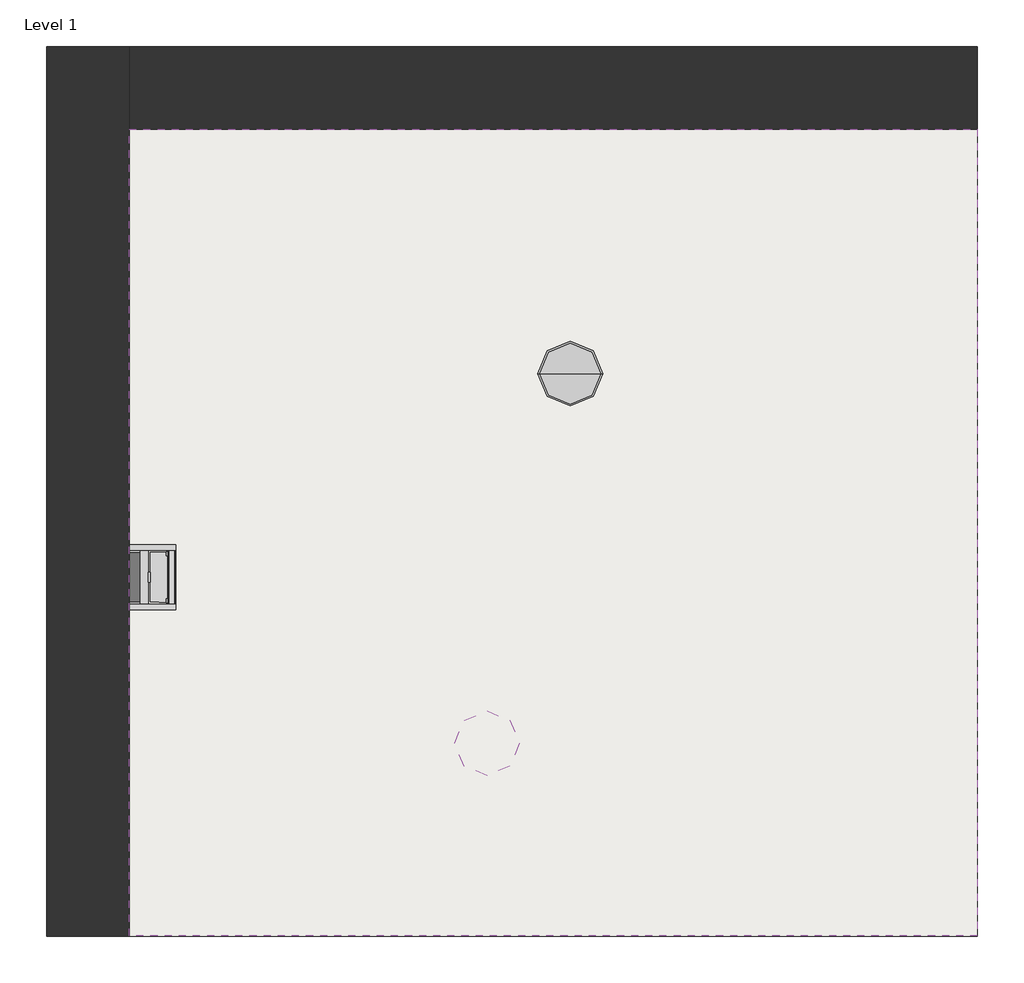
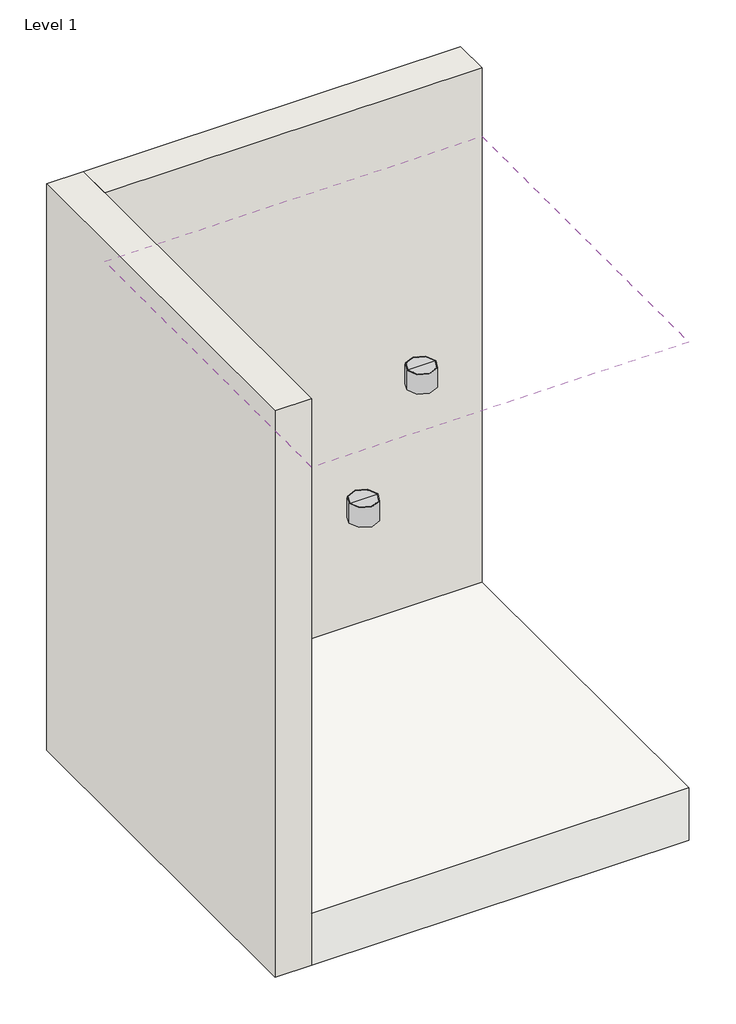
# One storey: 3 light fixtures, 2 walls, 1 covering, 1 slab.
"""IFC4 building model written with IfcOpenShell, lengths in millimetres."""

import ifcopenshell
import ifcopenshell.guid

model = None  # the IFC model being written
_history = None  # IfcOwnerHistory: only IFC2X3 demands one
_inside = {}  # id of a spatial element -> (the spatial element, [elements in it])
_under = {}  # id of a project, library or spatial element -> (it, [spatial elements below it])
_declared = {}  # id of a project -> (the project, [libraries it declares])
_typed = {}  # id of a type object -> (the type object, [elements of that type])
_made_of = {}  # id of a material, layer set ... -> (it, [elements and type objects made of it])


def new_model(schema):
    """Start an empty IFC model of exactly this schema.

    Asked for "IFC4X3", IfcOpenShell would pick the latest addendum, in which some entities
    have other attributes; the version numbers below select the first issue.
    IFC2X3 requires an IfcOwnerHistory on every rooted entity: one is made here for all.
    """
    global model, _history
    if schema == "IFC4X3":
        model = ifcopenshell.file(schema_version=(4, 3, 0, 0))
    else:
        model = ifcopenshell.file(schema=schema)
    _inside.clear()
    _under.clear()
    _declared.clear()
    _typed.clear()
    _made_of.clear()
    _history = None
    if model.schema == "IFC2X3":
        org = make("IfcOrganization", Name="unknown")
        user = make(
            "IfcPersonAndOrganization",
            ThePerson=make("IfcPerson", FamilyName="unknown"),
            TheOrganization=org,
        )
        app = make(
            "IfcApplication",
            ApplicationDeveloper=org,
            Version="unknown",
            ApplicationFullName="unknown",
            ApplicationIdentifier="unknown",
        )
        _history = make(
            "IfcOwnerHistory",
            OwningUser=user,
            OwningApplication=app,
            ChangeAction="ADDED",
            CreationDate=0,
        )
    return model


def make(cls, **values):
    """One entity of the class cls with the attributes given. An attribute that is None is left unset."""
    return model.create_entity(
        cls, **{name: value for name, value in values.items() if value is not None}
    )


def rooted(cls, **values):
    """An entity with a GlobalId (a new one), such as an element, a storey or a relation."""
    return make(cls, GlobalId=ifcopenshell.guid.new(), OwnerHistory=_history, **values)


def si_unit(unit_type, name, prefix=None):
    """IfcSIUnit, for example si_unit("LENGTHUNIT", "METRE", prefix="MILLI")."""
    return make("IfcSIUnit", UnitType=unit_type, Prefix=prefix, Name=name)


def assignment(units):
    """IfcUnitAssignment: the units of a project."""
    return None if units is None else make("IfcUnitAssignment", Units=units)


def point(xyz):
    """IfcCartesianPoint."""
    return None if xyz is None else make("IfcCartesianPoint", Coordinates=xyz)


def direction(xyz):
    """IfcDirection."""
    return None if xyz is None else make("IfcDirection", DirectionRatios=xyz)


def frame(location, z_axis=None, x_axis=None):
    """IfcAxis2Placement3D, a coordinate frame: its origin and axes. An axis left out is left unset."""
    return make(
        "IfcAxis2Placement3D",
        Location=point(location),
        Axis=direction(z_axis),
        RefDirection=direction(x_axis),
    )


def frame_2d(location, x_axis=None):
    """IfcAxis2Placement2D, a coordinate frame in the plane: its origin and x axis."""
    return make(
        "IfcAxis2Placement2D", Location=point(location), RefDirection=direction(x_axis)
    )


def origin():
    """The frame at (0, 0, 0) with its axes left unset."""
    return frame((0.0, 0.0, 0.0))


def place(relative_to, where):
    """IfcLocalPlacement: puts the frame where relative to a parent placement (None: the world)."""
    return make(
        "IfcLocalPlacement", PlacementRelTo=relative_to, RelativePlacement=where
    )


def context(
    kind, dimensions, precision=None, world=None, true_north=None, identifier=None
):
    """IfcGeometricRepresentationContext, for example the 3D "Model" context."""
    return make(
        "IfcGeometricRepresentationContext",
        ContextIdentifier=identifier,
        ContextType=kind,
        CoordinateSpaceDimension=dimensions,
        Precision=precision,
        WorldCoordinateSystem=world,
        TrueNorth=true_north,
    )


def project(units=None, contexts=None):
    """IfcProject with its units and contexts."""
    return rooted(
        "IfcProject",
        Name="project",
        RepresentationContexts=contexts,
        UnitsInContext=assignment(units),
    )


def spatial(cls, under=None, at=None, **own):
    """A site, building, storey or space (cls), placed at a placement, below another one or the project."""
    s = rooted(cls, ObjectPlacement=at, **own)
    if under is not None:
        _under.setdefault(under.id(), (under, []))[1].append(s)
    return s


def polyline(points):
    """IfcPolyline through the points."""
    return make("IfcPolyline", Points=[point(p) for p in points])


def circle_curve(where, radius):
    """IfcCircle in the frame where."""
    return make("IfcCircle", Position=where, Radius=radius)


def ellipse_curve(where, semi_axis1, semi_axis2):
    """IfcEllipse in the frame where."""
    return make(
        "IfcEllipse", Position=where, SemiAxis1=semi_axis1, SemiAxis2=semi_axis2
    )


def trimmed(basis, trim1, trim2, sense, master):
    """IfcTrimmedCurve: the piece of a basis curve between two trims."""
    return make(
        "IfcTrimmedCurve",
        BasisCurve=basis,
        Trim1=trim1,
        Trim2=trim2,
        SenseAgreement=sense,
        MasterRepresentation=master,
    )


def segment(curve, same_sense, transition):
    """IfcCompositeCurveSegment."""
    return make(
        "IfcCompositeCurveSegment",
        Transition=transition,
        SameSense=same_sense,
        ParentCurve=curve,
    )


def composite_curve(segments, self_intersect=None):
    """IfcCompositeCurve: segments joined end to end."""
    return make("IfcCompositeCurve", Segments=segments, SelfIntersect=self_intersect)


def outline(outer, holes=None, kind="AREA"):
    """IfcArbitraryClosedProfileDef: a profile drawn as a closed curve; with holes, ...WithVoids."""
    if holes is None:
        return make("IfcArbitraryClosedProfileDef", ProfileType=kind, OuterCurve=outer)
    return make(
        "IfcArbitraryProfileDefWithVoids",
        ProfileType=kind,
        OuterCurve=outer,
        InnerCurves=holes,
    )


def extrude(swept, where, along, depth):
    """IfcExtrudedAreaSolid: the profile swept, set in the frame where, extruded along a direction by depth."""
    return make(
        "IfcExtrudedAreaSolid",
        SweptArea=swept,
        Position=where,
        ExtrudedDirection=direction(along),
        Depth=depth,
    )


def faces_of(points, faces, orient=None, outer=None):
    """IfcFace entities. A face is a list of loops; a loop is a list of indices into points, from 0.

    orient and outer hold one flag for each loop. By default every Orientation is true, the
    first loop of a face is its IfcFaceOuterBound and the others are IfcFaceBound.
    """
    made = []
    for i, loops in enumerate(faces):
        bounds = []
        for j, loop in enumerate(loops):
            is_outer = j == 0 if outer is None else outer[i][j]
            bounds.append(
                make(
                    "IfcFaceOuterBound" if is_outer else "IfcFaceBound",
                    Bound=make("IfcPolyLoop", Polygon=[points[k] for k in loop]),
                    Orientation=True if orient is None else orient[i][j],
                )
            )
        made.append(make("IfcFace", Bounds=bounds))
    return made


def faceted_brep(points, faces, orient=None, outer=None, voids=None):
    """IfcFacetedBrep: a solid bounded by flat faces; with voids (closed shells), ...WithVoids."""
    shared = [point(p) for p in points]
    hull = make("IfcClosedShell", CfsFaces=faces_of(shared, faces, orient, outer))
    if voids is None:
        return make("IfcFacetedBrep", Outer=hull)
    return make(
        "IfcFacetedBrepWithVoids",
        Outer=hull,
        Voids=[
            make(cls, CfsFaces=faces_of(shared, fs, o, b)) for cls, fs, o, b in voids
        ],
    )


def shape(context_of_items, identifier, shape_type, items):
    """IfcShapeRepresentation: the items that make up one representation, for example the "Body"."""
    return make(
        "IfcShapeRepresentation",
        ContextOfItems=context_of_items,
        RepresentationIdentifier=identifier,
        RepresentationType=shape_type,
        Items=items,
    )


def source(mapping_origin, context_of_items, identifier, shape_type, items):
    """IfcRepresentationMap: a shape defined once, which mapped items show again and again."""
    return make(
        "IfcRepresentationMap",
        MappingOrigin=mapping_origin,
        MappedRepresentation=shape(context_of_items, identifier, shape_type, items),
    )


def transform(
    local_origin,
    x_axis=None,
    y_axis=None,
    z_axis=None,
    scale=None,
    scale2=None,
    scale3=None,
    uniform=True,
):
    """IfcCartesianTransformationOperator3D, or its non-uniform kind. x_axis, y_axis, z_axis: its Axis1, 2, 3."""
    if uniform:
        return make(
            "IfcCartesianTransformationOperator3D",
            Axis1=direction(x_axis),
            Axis2=direction(y_axis),
            LocalOrigin=point(local_origin),
            Scale=scale,
            Axis3=direction(z_axis),
        )
    return make(
        "IfcCartesianTransformationOperator3DnonUniform",
        Axis1=direction(x_axis),
        Axis2=direction(y_axis),
        LocalOrigin=point(local_origin),
        Scale=scale,
        Axis3=direction(z_axis),
        Scale2=scale2,
        Scale3=scale3,
    )


def mapped(mapping_source, mapping_target):
    """IfcMappedItem: shows the shape of a source again, moved by a transform."""
    return make(
        "IfcMappedItem", MappingSource=mapping_source, MappingTarget=mapping_target
    )


def made_of(thing, what):
    """Note that an element or type object is made of a material, layer set ...; save() writes the relation."""
    if what is not None:
        _made_of.setdefault(what.id(), (what, []))[1].append(thing)
    return thing


def element(
    cls,
    number,
    at=None,
    inside=None,
    cuts=None,
    type_object=None,
    material=None,
    context=None,
    identifier="Body",
    shape_type=None,
    held_by="IfcProductDefinitionShape",
    body=None,
    shapes=None,
    **own,
):
    """One element of the class cls, such as IfcWall. Its Tag is "e" and its number.

    at: its placement. inside: the storey or other place that contains it. cuts: it is an
    opening in that element (IfcRelVoidsElement). A single representation is given by context,
    identifier, shape_type and body (its items); several are given by shapes. held_by: the class
    of the entity that holds the representations. save() writes the other relations.
    """
    e = rooted(cls, Tag="e%d" % number, ObjectPlacement=at, **own)
    if body is not None:
        shapes = [shape(context, identifier, shape_type, body)]
    if shapes is not None:
        e.Representation = make(held_by, Representations=shapes)
    if inside is not None:
        _inside.setdefault(inside.id(), (inside, []))[1].append(e)
    if cuts is not None:
        rooted(
            "IfcRelVoidsElement", RelatingBuildingElement=cuts, RelatedOpeningElement=e
        )
    if type_object is not None:
        _typed.setdefault(type_object.id(), (type_object, []))[1].append(e)
    return made_of(e, material)


def aggregate(whole, parts):
    """IfcRelAggregates: a whole, such as a stair, and the parts it consists of."""
    return rooted("IfcRelAggregates", RelatingObject=whole, RelatedObjects=parts)


def save(model, path):
    """Write the relations noted so far, then the file.

    IfcRelAggregates (storeys below a building ...), IfcRelContainedInSpatialStructure (elements
    in a storey), IfcRelDefinesByType, IfcRelAssociatesMaterial and IfcRelDeclares: one each for
    every whole, place, type object, material and project.
    """
    for whole, parts in _under.values():
        aggregate(whole, parts)
    for where, things in _inside.values():
        rooted(
            "IfcRelContainedInSpatialStructure",
            RelatedElements=things,
            RelatingStructure=where,
        )
    for kind, things in _typed.values():
        rooted("IfcRelDefinesByType", RelatedObjects=things, RelatingType=kind)
    for what, things in _made_of.values():
        rooted("IfcRelAssociatesMaterial", RelatedObjects=things, RelatingMaterial=what)
    for by, libraries in _declared.values():
        rooted("IfcRelDeclares", RelatingContext=by, RelatedDefinitions=libraries)
    model.write(path)


def plane_surface(at):
    """IfcPlane: the flat surface through the origin of the frame at, square to its z axis."""
    return make("IfcPlane", Position=at)


def cylinder_surface(at, radius):
    """IfcCylindricalSurface: all points at the distance radius from the z axis of the frame at."""
    return make("IfcCylindricalSurface", Position=at, Radius=radius)


def revolved_surface(curve, axis_point, axis_direction):
    """IfcSurfaceOfRevolution: the curve turned about the line through axis_point along axis_direction."""
    return make(
        "IfcSurfaceOfRevolution",
        SweptCurve=make("IfcArbitraryOpenProfileDef", ProfileType="CURVE", Curve=curve),
        AxisPosition=make("IfcAxis1Placement", Location=point(axis_point), Axis=direction(axis_direction)),
    )


def advanced_brep(points, edges, surfaces, faces):
    """IfcAdvancedBrep: a solid bounded by faces that lie on surfaces and meet in shared edges.

    An edge is (start, end): straight between two places in points (the first is 0);
    or (start, end, curve); or (start, end, curve, False) where it runs against its curve.
    A face is (place in surfaces, loops), or (place, loops, False) where it looks against
    its surface's normal. A loop lists edges by number (the first is 1), with a minus sign
    where the edge is run from its end to its start. The first loop is the outer one.
    """
    corners = [point(p) for p in points]
    vertices = [make("IfcVertexPoint", VertexGeometry=c) for c in corners]
    made = []
    for start, end, *more in edges:
        made.append(
            make(
                "IfcEdgeCurve",
                EdgeStart=vertices[start],
                EdgeEnd=vertices[end],
                EdgeGeometry=more[0] if more else make("IfcPolyline", Points=[corners[start], corners[end]]),
                SameSense=more[1] if len(more) > 1 else True,
            )
        )
    hull = []
    for where, loops, *sense in faces:
        bounds = []
        for j, loop in enumerate(loops):
            ring = [make("IfcOrientedEdge", EdgeElement=made[abs(k) - 1], Orientation=k > 0) for k in loop]
            bounds.append(
                make(
                    "IfcFaceOuterBound" if j == 0 else "IfcFaceBound",
                    Bound=make("IfcEdgeLoop", EdgeList=ring),
                    Orientation=True,
                )
            )
        hull.append(make("IfcAdvancedFace", Bounds=bounds, FaceSurface=surfaces[where], SameSense=sense[0] if sense else True))
    return make("IfcAdvancedBrep", Outer=make("IfcClosedShell", CfsFaces=hull))


def light_fixture_8562f4af(model_context):
    return source(origin(), model_context, "Body", "SolidModel", [
        advanced_brep(
        [(74.8683073, -33.7992882, 0.0), (-74.8683073, -33.7992882, 0.0), (0.0, -33.7992882, 0.0), (74.8683073, -33.7992882, -26.1716136), (-74.8683073, -33.7992882, -26.1716136), (0.0, -33.7992882, -26.1716136)],
        [
            (0, 1, circle_curve(frame((0.0, -33.7992882, 0.0), z_axis=(0.0, 0.0, 1.0), x_axis=(-1.0, 0.0, 0.0)), 74.8683073)),
            (1, 2),
            (2, 0),
            (1, 0, circle_curve(frame((0.0, -33.7992882, 0.0), z_axis=(0.0, 0.0, 1.0), x_axis=(-1.0, 0.0, 0.0)), 74.8683073)),
            (3, 4, circle_curve(frame((0.0, -33.7992882, -26.1716136), z_axis=(0.0, 0.0, 1.0), x_axis=(-1.0, 0.0, 0.0)), 74.8683073)),
            (4, 1),
            (0, 3),
            (4, 3, circle_curve(frame((0.0, -33.7992882, -26.1716136), z_axis=(0.0, 0.0, 1.0), x_axis=(-1.0, 0.0, 0.0)), 74.8683073)),
            (5, 4),
            (3, 5),
        ],
        [
            plane_surface(frame((0.0, -33.7992882, 0.0), z_axis=(0.0, 0.0, 1.0), x_axis=(-1.0, 0.0, 0.0))),
            cylinder_surface(frame((0.0, -33.7992882, 2350.6431236), z_axis=(0.0, 0.0, -1.0), x_axis=(-1.0, 0.0, 0.0)), 74.8683073),
            plane_surface(frame((0.0, -33.7992882, -26.1716136), z_axis=(0.0, 0.0, -1.0), x_axis=(-1.0, 0.0, 0.0))),
        ],
        [
            (0, [[1, 2, 3]]),
            (0, [[4, -3, -2]]),
            (1, [[5, 6, -1, 7]]),
            (1, [[8, -7, -4, -6]]),
            (2, [[9, -5, 10]]),
            (2, [[-10, -8, -9]]),
        ],
    ),
        advanced_brep(
        [(79.375, -33.7992882, -114.3), (-79.375, -33.7992882, -114.3), (-79.375, -33.7992882, 0.0), (79.375, -33.7992882, 0.0), (76.218677, -33.7992882, -114.3), (-76.218677, -33.7992882, -114.3), (73.7146298, -33.7992882, -112.4695561), (-73.7146298, -33.7992882, -112.4695561), (72.4208316, -33.7992882, -111.6827591), (-72.4208316, -33.7992882, -111.6827591), (67.9983817, -33.7992882, -97.4715725), (-67.9983817, -33.7992882, -97.4715725), (64.5876251, -33.7992882, -97.2220238), (-64.5876251, -33.7992882, -97.2220238), (62.8687802, -33.7992882, -94.2787464), (-62.8687802, -33.7992882, -94.2787464), (60.7788732, -33.7992882, -51.0840469), (-60.7788732, -33.7992882, -51.0840469), (12.0557957, -33.7992882, -51.0840469), (-12.0557957, -33.7992882, -51.0840469), (12.0557957, -33.7992882, -47.1409651), (-12.0557957, -33.7992882, -47.1409651), (74.8683073, -33.7992882, -47.1409651), (-74.8683073, -33.7992882, -47.1409651), (74.8683073, -33.7992882, 0.0), (-74.8683073, -33.7992882, 0.0)],
        [
            (0, 1, circle_curve(frame((0.0, -33.7992882, -114.3), z_axis=(0.0, 0.0, 1.0), x_axis=(-1.0, 0.0, 0.0)), 79.375)),
            (1, 2),
            (2, 3, circle_curve(frame((0.0, -33.7992882, 0.0), z_axis=(0.0, 0.0, -1.0), x_axis=(-1.0, 0.0, 0.0)), 79.375)),
            (3, 0),
            (1, 0, circle_curve(frame((0.0, -33.7992882, -114.3), z_axis=(0.0, 0.0, 1.0), x_axis=(-1.0, 0.0, 0.0)), 79.375)),
            (3, 2, circle_curve(frame((0.0, -33.7992882, 0.0), z_axis=(0.0, 0.0, -1.0), x_axis=(-1.0, 0.0, 0.0)), 79.375)),
            (4, 5, circle_curve(frame((0.0, -33.7992882, -114.3), z_axis=(0.0, 0.0, 1.0), x_axis=(-1.0, 0.0, 0.0)), 76.218677)),
            (5, 1),
            (0, 4),
            (5, 4, circle_curve(frame((0.0, -33.7992882, -114.3), z_axis=(0.0, 0.0, 1.0), x_axis=(-1.0, 0.0, 0.0)), 76.218677)),
            (6, 7, circle_curve(frame((0.0, -33.7992882, -112.4695561), z_axis=(0.0, 0.0, 1.0), x_axis=(-1.0, 0.0, 0.0)), 73.7146298)),
            (7, 5),
            (4, 6),
            (7, 6, circle_curve(frame((0.0, -33.7992882, -112.4695561), z_axis=(0.0, 0.0, 1.0), x_axis=(-1.0, 0.0, 0.0)), 73.7146298)),
            (8, 9, circle_curve(frame((0.0, -33.7992882, -111.6827591), z_axis=(0.0, 0.0, 1.0), x_axis=(-1.0, 0.0, 0.0)), 72.4208316)),
            (9, 7, circle_curve(frame((-73.4813574, -33.7992882, -111.3959956), z_axis=(0.0, 1.0, 0.0), x_axis=(1.0, 0.0, 0.0)), 1.0986119)),
            (6, 8, circle_curve(frame((73.4813574, -33.7992882, -111.3959956), z_axis=(0.0, 1.0, 0.0), x_axis=(-1.0, 0.0, 0.0)), 1.0986119)),
            (9, 8, circle_curve(frame((0.0, -33.7992882, -111.6827591), z_axis=(0.0, 0.0, 1.0), x_axis=(-1.0, 0.0, 0.0)), 72.4208316)),
            (10, 11, circle_curve(frame((0.0, -33.7992882, -97.4715725), z_axis=(0.0, 0.0, 1.0), x_axis=(-1.0, 0.0, 0.0)), 67.9983817)),
            (11, 9),
            (8, 10),
            (11, 10, circle_curve(frame((0.0, -33.7992882, -97.4715725), z_axis=(0.0, 0.0, 1.0), x_axis=(-1.0, 0.0, 0.0)), 67.9983817)),
            (12, 13, circle_curve(frame((0.0, -33.7992882, -97.2220238), z_axis=(0.0, 0.0, 1.0), x_axis=(-1.0, 0.0, 0.0)), 64.5876251)),
            (13, 11),
            (10, 12),
            (13, 12, circle_curve(frame((0.0, -33.7992882, -97.2220238), z_axis=(0.0, 0.0, 1.0), x_axis=(-1.0, 0.0, 0.0)), 64.5876251)),
            (14, 15, circle_curve(frame((0.0, -33.7992882, -94.2787464), z_axis=(0.0, 0.0, 1.0), x_axis=(-1.0, 0.0, 0.0)), 62.8687802)),
            (15, 13),
            (12, 14),
            (15, 14, circle_curve(frame((0.0, -33.7992882, -94.2787464), z_axis=(0.0, 0.0, 1.0), x_axis=(-1.0, 0.0, 0.0)), 62.8687802)),
            (16, 17, circle_curve(frame((0.0, -33.7992882, -51.0840469), z_axis=(0.0, 0.0, 1.0), x_axis=(-1.0, 0.0, 0.0)), 60.7788732)),
            (17, 15),
            (14, 16),
            (17, 16, circle_curve(frame((0.0, -33.7992882, -51.0840469), z_axis=(0.0, 0.0, 1.0), x_axis=(-1.0, 0.0, 0.0)), 60.7788732)),
            (18, 19, circle_curve(frame((0.0, -33.7992882, -51.0840469), z_axis=(0.0, 0.0, 1.0), x_axis=(-1.0, 0.0, 0.0)), 12.0557957)),
            (19, 17),
            (16, 18),
            (19, 18, circle_curve(frame((0.0, -33.7992882, -51.0840469), z_axis=(0.0, 0.0, 1.0), x_axis=(-1.0, 0.0, 0.0)), 12.0557957)),
            (20, 21, circle_curve(frame((0.0, -33.7992882, -47.1409651), z_axis=(0.0, 0.0, 1.0), x_axis=(-1.0, 0.0, 0.0)), 12.0557957)),
            (21, 19),
            (18, 20),
            (21, 20, circle_curve(frame((0.0, -33.7992882, -47.1409651), z_axis=(0.0, 0.0, 1.0), x_axis=(-1.0, 0.0, 0.0)), 12.0557957)),
            (22, 23, circle_curve(frame((0.0, -33.7992882, -47.1409651), z_axis=(0.0, 0.0, 1.0), x_axis=(-1.0, 0.0, 0.0)), 74.8683073)),
            (23, 21),
            (20, 22),
            (23, 22, circle_curve(frame((0.0, -33.7992882, -47.1409651), z_axis=(0.0, 0.0, 1.0), x_axis=(-1.0, 0.0, 0.0)), 74.8683073)),
            (24, 25, circle_curve(frame((0.0, -33.7992882, 0.0), z_axis=(0.0, 0.0, 1.0), x_axis=(-1.0, 0.0, 0.0)), 74.8683073)),
            (25, 23),
            (22, 24),
            (25, 24, circle_curve(frame((0.0, -33.7992882, 0.0), z_axis=(0.0, 0.0, 1.0), x_axis=(-1.0, 0.0, 0.0)), 74.8683073)),
            (2, 25),
            (24, 3),
        ],
        [
            cylinder_surface(frame((0.0, -33.7992882, -321.7372756), z_axis=(0.0, 0.0, -1.0), x_axis=(-1.0, 0.0, 0.0)), 79.375),
            plane_surface(frame((0.0, -33.7992882, -114.3), z_axis=(0.0, 0.0, -1.0), x_axis=(-1.0, 0.0, 0.0))),
            revolved_surface(polyline([(-76.218677, -33.7992882, -114.3), (-73.7146298, -33.7992882, -112.4695561)]), (0.0, -33.7992882, -321.7372756), (0.0, 0.0, -1.0)),
            revolved_surface(trimmed(ellipse_curve(frame((-73.4813574, -33.7992882, -111.3959956), z_axis=(0.0, -1.0, 0.0), x_axis=(1.0, 0.0, 0.0)), 1.0986119, 1.0986119), [point((-73.7146298, -33.7992882, -112.4695561))], [point((-72.4208316, -33.7992882, -111.6827591))], True, "CARTESIAN"), (0.0, -33.7992882, -321.7372756), (0.0, 0.0, -1.0)),
            revolved_surface(polyline([(-72.4208316, -33.7992882, -111.6827591), (-67.9983817, -33.7992882, -97.4715725)]), (0.0, -33.7992882, -321.7372756), (0.0, 0.0, -1.0)),
            revolved_surface(polyline([(-67.9983817, -33.7992882, -97.4715725), (-64.5876251, -33.7992882, -97.2220238)]), (0.0, -33.7992882, -321.7372756), (0.0, 0.0, -1.0)),
            revolved_surface(polyline([(-64.5876251, -33.7992882, -97.2220238), (-62.8687802, -33.7992882, -94.2787464)]), (0.0, -33.7992882, -321.7372756), (0.0, 0.0, -1.0)),
            revolved_surface(polyline([(-62.8687802, -33.7992882, -94.2787464), (-60.7788732, -33.7992882, -51.0840469)]), (0.0, -33.7992882, -321.7372756), (0.0, 0.0, -1.0)),
            plane_surface(frame((0.0, -33.7992882, -51.0840469), z_axis=(0.0, 0.0, -1.0), x_axis=(-1.0, 0.0, 0.0))),
            revolved_surface(polyline([(-12.0557957, -33.7992882, -51.084046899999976), (-12.0557957, -33.7992882, -47.14096510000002)]), (0.0, -33.7992882, -321.7372756), (0.0, 0.0, -1.0)),
            plane_surface(frame((0.0, -33.7992882, -47.1409651), z_axis=(0.0, 0.0, 1.0), x_axis=(-1.0, 0.0, 0.0))),
            revolved_surface(polyline([(-74.8683073, -33.7992882, -47.14096510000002), (-74.8683073, -33.7992882, 0.0)]), (0.0, -33.7992882, -321.7372756), (0.0, 0.0, -1.0)),
            plane_surface(frame((0.0, -33.7992882, 0.0), z_axis=(0.0, 0.0, 1.0), x_axis=(-1.0, 0.0, 0.0))),
        ],
        [
            (0, [[1, 2, 3, 4]]),
            (0, [[5, -4, 6, -2]]),
            (1, [[7, 8, -1, 9]]),
            (1, [[10, -9, -5, -8]]),
            (2, [[11, 12, -7, 13]]),
            (2, [[14, -13, -10, -12]]),
            (3, [[15, 16, -11, 17]]),
            (3, [[18, -17, -14, -16]]),
            (4, [[19, 20, -15, 21]]),
            (4, [[22, -21, -18, -20]]),
            (5, [[23, 24, -19, 25]]),
            (5, [[26, -25, -22, -24]]),
            (6, [[27, 28, -23, 29]]),
            (6, [[30, -29, -26, -28]]),
            (7, [[31, 32, -27, 33]]),
            (7, [[34, -33, -30, -32]]),
            (8, [[35, 36, -31, 37]]),
            (8, [[38, -37, -34, -36]]),
            (9, [[39, 40, -35, 41]]),
            (9, [[42, -41, -38, -40]]),
            (10, [[43, 44, -39, 45]]),
            (10, [[46, -45, -42, -44]]),
            (11, [[47, 48, -43, 49]]),
            (11, [[50, -49, -46, -48]]),
            (12, [[-3, 51, -47, 52]]),
            (12, [[-6, -52, -50, -51]]),
        ],
    ),
        extrude(outline(composite_curve([segment(trimmed(circle_curve(frame_2d((0.0, -33.7992882)), 62.8687802), [point((-62.8687802, -33.7992882))], [point((62.8687802, -33.7992882))], False, "CARTESIAN"), True, "CONTINUOUS"), segment(trimmed(circle_curve(frame_2d((0.0, -33.7992882)), 62.8687802), [point((62.8687802, -33.7992882))], [point((-62.8687802, -33.7992882))], False, "CARTESIAN"), True, "CONTINUOUS")], self_intersect=False)), frame((0.0, 0.0, -94.2787464), z_axis=(0.0, 0.0, 1.0), x_axis=(1.0, 0.0, 0.0)), (0.0, 0.0, 1.0), 3.0868485),
    ])


model = new_model("IFC4")

# Units and contexts
model_context = context("Model", 3, world=origin())
ifc_project = project(units=[si_unit("LENGTHUNIT", "METRE", prefix="MILLI")], contexts=[model_context])

# Site, building, storey
site = spatial("IfcSite", under=ifc_project)
building = spatial("IfcBuilding", under=site)
storey = spatial("IfcBuildingStorey", under=building, Name="Level 1", Elevation=0.0)

# Covering
placement = place(None, origin())
element("IfcCovering", 1, ObjectType="Ceiling 2", at=placement, inside=storey, context=model_context, shape_type="SweptSolid", body=[
    extrude(outline(polyline([(4291.0676417, 3741.7404022), (4291.0676417, 1760.5404022), (2208.2676417, 1760.5404022), (2208.2676417, 3741.7404022), (4291.0676417, 3741.7404022)])), frame((0.0, 0.0, 2600.0), z_axis=(0.0, 0.0, 1.0), x_axis=(1.0, 0.0, 0.0)), (0.0, 0.0, 1.0), 25.4),
])

# Light fixtures
light_fixture_shape = light_fixture_8562f4af(model_context)
element("IfcLightFixture", 2, ObjectType="LCMLD6_SURFACE MOUNT BASIC CYLINDER : LCMLD640W", at=placement, inside=storey, context=model_context, shape_type="MappedRepresentation", body=[
    mapped(light_fixture_shape, transform((3086.6777316, 2267.5018189, 2600.0), x_axis=(1.0, 0.0, 0.0), y_axis=(0.0, 1.0, 0.0), z_axis=(0.0, 0.0, 1.0))),
])
element("IfcLightFixture", 3, ObjectType="LCMLD6_SURFACE MOUNT BASIC CYLINDER : LCMLD640W", at=placement, inside=storey, context=model_context, shape_type="MappedRepresentation", body=[
    mapped(light_fixture_shape, transform((2208.2676417, 2641.7404022, 1134.7714181), x_axis=(0.0, 1.0, 0.0), y_axis=(0.0, 0.0, -1.0), z_axis=(-1.0, 0.0, 0.0))),
])
element("IfcLightFixture", 4, ObjectType="LCMLD6_SURFACE MOUNT BASIC CYLINDER : LCMLD640W", at=placement, inside=storey, context=model_context, shape_type="MappedRepresentation", body=[
    mapped(light_fixture_shape, transform((3291.0676417, 3175.5396904, 1200.0), x_axis=(1.0, 0.0, 0.0), y_axis=(0.0, 1.0, 0.0), z_axis=(0.0, 0.0, 1.0))),
])

# Slab
element("IfcSlab", 5, ObjectType="Floor 1", at=placement, inside=storey, context=model_context, shape_type="SweptSolid", body=[
    extrude(outline(polyline([(4291.0676417, 3741.7404022), (4291.0676417, 1760.5404022), (2208.2676417, 1760.5404022), (2208.2676417, 3741.7404022), (4291.0676417, 3741.7404022)])), frame((0.0, 0.0, -304.8), z_axis=(0.0, 0.0, 1.0), x_axis=(1.0, 0.0, 0.0)), (0.0, 0.0, 1.0), 304.8),
])

# Walls
element("IfcWall", 6, ObjectType="Wall 1", at=placement, inside=storey, context=model_context, shape_type="Brep", body=[
    faceted_brep([(2005.0676417, 3944.9404022, -304.8), (2005.0676417, 1760.5404022, -304.8), (2005.0676417, 1760.5404022, 3000.0), (2005.0676417, 3944.9404022, 3000.0), (2208.2676417, 3944.9404022, -304.8), (2208.2676417, 3944.9404022, 3000.0), (2208.2676417, 3741.7404022, 3000.0), (2208.2676417, 1760.5404022, 3000.0), (2208.2676417, 1760.5404022, -304.8), (2208.2676417, 3741.7404022, -304.8)], [[[0, 1, 2, 3]], [[4, 5, 6, 7, 8, 9]], [[1, 0, 4, 9, 8]], [[2, 1, 8, 7]], [[3, 2, 7, 6, 5]], [[0, 3, 5, 4]]]),
])
element("IfcWall", 7, ObjectType="Wall 1", at=placement, inside=storey, context=model_context, shape_type="SweptSolid", body=[
    extrude(outline(polyline([(4291.0676417, 3741.7404022), (2208.2676417, 3741.7404022), (2208.2676417, 3944.9404022), (4291.0676417, 3944.9404022), (4291.0676417, 3741.7404022)])), frame((0.0, 0.0, -304.8), z_axis=(0.0, 0.0, 1.0), x_axis=(1.0, 0.0, 0.0)), (0.0, 0.0, 1.0), 3304.8),
])

save(model, "model.ifc")
